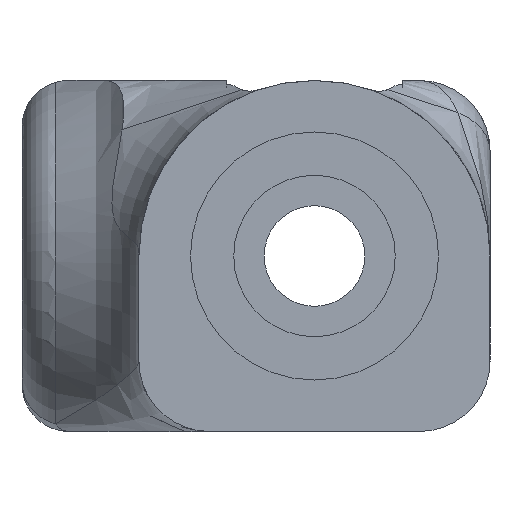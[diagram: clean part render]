
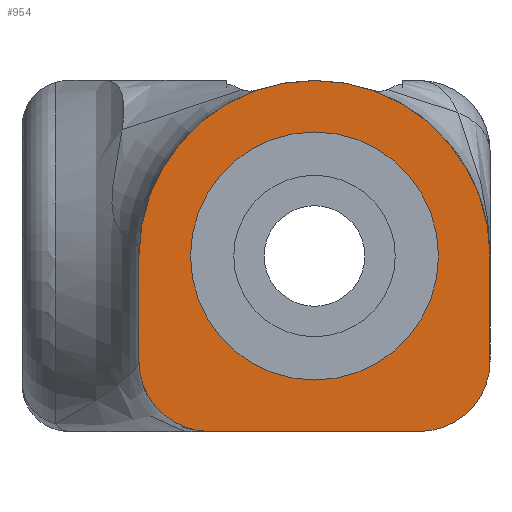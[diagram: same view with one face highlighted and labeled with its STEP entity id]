
A CAD part, left-side view. The second image highlights one B-rep face of the part: STEP entity #954.
In plain terms, the highlighted planar face has unit normal (-1, 0, 0).
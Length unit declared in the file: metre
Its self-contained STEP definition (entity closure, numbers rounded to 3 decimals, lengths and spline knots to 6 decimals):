
#73=LINE('',#1401,#135);
#77=LINE('',#1422,#139);
#96=LINE('',#1507,#158);
#135=VECTOR('',#1125,1.);
#139=VECTOR('',#1133,1.);
#158=VECTOR('',#1176,1.);
#275=ORIENTED_EDGE('',*,*,#541,.T.);
#276=ORIENTED_EDGE('',*,*,#478,.T.);
#277=ORIENTED_EDGE('',*,*,#544,.T.);
#278=ORIENTED_EDGE('',*,*,#517,.F.);
#279=ORIENTED_EDGE('',*,*,#545,.T.);
#280=ORIENTED_EDGE('',*,*,#485,.T.);
#281=ORIENTED_EDGE('',*,*,#530,.F.);
#478=EDGE_CURVE('',#619,#618,#73,.T.);
#485=EDGE_CURVE('',#626,#625,#77,.T.);
#517=EDGE_CURVE('',#655,#656,#96,.T.);
#530=EDGE_CURVE('',#619,#625,#723,.T.);
#541=EDGE_CURVE('',#675,#675,#730,.T.);
#544=EDGE_CURVE('',#618,#656,#733,.F.);
#545=EDGE_CURVE('',#655,#626,#734,.F.);
#618=VERTEX_POINT('',#1400);
#619=VERTEX_POINT('',#1402);
#625=VERTEX_POINT('',#1421);
#626=VERTEX_POINT('',#1423);
#655=VERTEX_POINT('',#1506);
#656=VERTEX_POINT('',#1508);
#675=VERTEX_POINT('',#1559);
#723=CIRCLE('',#1034,0.0075);
#730=CIRCLE('',#1044,0.0053);
#733=CIRCLE('',#1051,0.003);
#734=CIRCLE('',#1052,0.003);
#786=EDGE_LOOP('',(#275));
#787=EDGE_LOOP('',(#276,#277,#278,#279,#280,#281));
#863=FACE_BOUND('',#786,.T.);
#864=FACE_BOUND('',#787,.T.);
#925=PLANE('',#1050);
#954=ADVANCED_FACE('',(#863,#864),#925,.F.);
#1034=AXIS2_PLACEMENT_3D('',#1536,#1196,#1197);
#1044=AXIS2_PLACEMENT_3D('',#1558,#1220,#1221);
#1050=AXIS2_PLACEMENT_3D('',#1567,#1232,#1233);
#1051=AXIS2_PLACEMENT_3D('',#1568,#1234,#1235);
#1052=AXIS2_PLACEMENT_3D('',#1569,#1236,#1237);
#1125=DIRECTION('',(0.,0.,-1.));
#1133=DIRECTION('',(0.,0.,1.));
#1176=DIRECTION('',(0.,1.,0.));
#1196=DIRECTION('',(1.,0.,0.));
#1197=DIRECTION('',(0.,0.,-1.));
#1220=DIRECTION('',(1.,0.,0.));
#1221=DIRECTION('',(0.,0.,-1.));
#1232=DIRECTION('',(1.,0.,0.));
#1233=DIRECTION('',(0.,1.,0.));
#1234=DIRECTION('',(1.,0.,0.));
#1235=DIRECTION('',(0.,0.,-1.));
#1236=DIRECTION('',(1.,0.,0.));
#1237=DIRECTION('',(0.,0.,-1.));
#1400=CARTESIAN_POINT('',(0.102,-0.025,-0.0235));
#1401=CARTESIAN_POINT('',(0.102,-0.025,-0.019));
#1402=CARTESIAN_POINT('',(0.102,-0.025,-0.019));
#1421=CARTESIAN_POINT('',(0.102,-0.04,-0.019));
#1422=CARTESIAN_POINT('',(0.102,-0.04,-0.01525));
#1423=CARTESIAN_POINT('',(0.102,-0.04,-0.0235));
#1506=CARTESIAN_POINT('',(0.102,-0.037,-0.0265));
#1507=CARTESIAN_POINT('',(0.102,-0.0325,-0.0265));
#1508=CARTESIAN_POINT('',(0.102,-0.028,-0.0265));
#1536=CARTESIAN_POINT('',(0.102,-0.0325,-0.019));
#1558=CARTESIAN_POINT('',(0.102,-0.0325,-0.019));
#1559=CARTESIAN_POINT('',(0.102,-0.0325,-0.0243));
#1567=CARTESIAN_POINT('',(0.102,-0.0325,-0.019));
#1568=CARTESIAN_POINT('',(0.102,-0.028,-0.0235));
#1569=CARTESIAN_POINT('',(0.102,-0.037,-0.0235));
